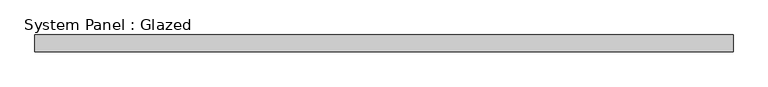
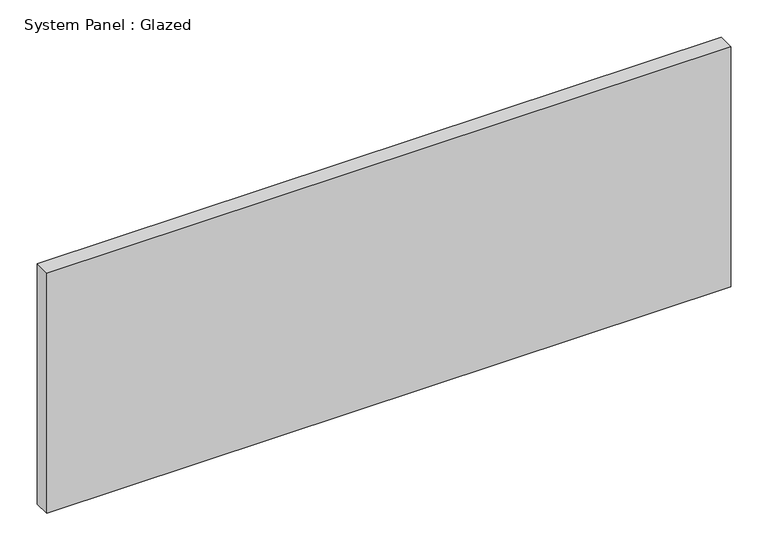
"""IFC4 building model written with IfcOpenShell, lengths in millimetres: plate geometry, System Panel : Glazed."""

from ifc_helpers import new_model, si_unit, origin, origin_with_axes, place, context, project, spatial, polyline, outline, extrude, source, transform, mapped, element, save


def system_panel_glazed_387a5b33(model_context):
    return source(origin(), model_context, "Body", "SweptSolid", [
        extrude(outline(polyline([(528.3200001, -44.45), (-528.3200001, -44.45), (-528.3200001, -19.05), (528.3200001, -19.05), (528.3200001, -44.45)])), origin_with_axes(), (0.0, 0.0, 1.0), 392.43),
    ])


if __name__ == "__main__":
    model = new_model("IFC4")
    model_context = context("Model", 3, world=origin())
    ifc_project = project(units=[si_unit("LENGTHUNIT", "METRE", prefix="MILLI")], contexts=[model_context])
    site = spatial("IfcSite", under=ifc_project)
    building = spatial("IfcBuilding", under=site)
    placement = place(None, origin())
    system_panel_glazed_shape = system_panel_glazed_387a5b33(model_context)
    element("IfcPlate", 1, ObjectType="System Panel : Glazed", at=placement, inside=building, context=model_context, shape_type="MappedRepresentation", body=[
        mapped(system_panel_glazed_shape, transform((0.0, 0.0, 0.0), x_axis=(1.0, 0.0, 0.0), y_axis=(0.0, 1.0, 0.0), z_axis=(0.0, 0.0, 1.0))),
    ])
    save(model, "model.ifc")
